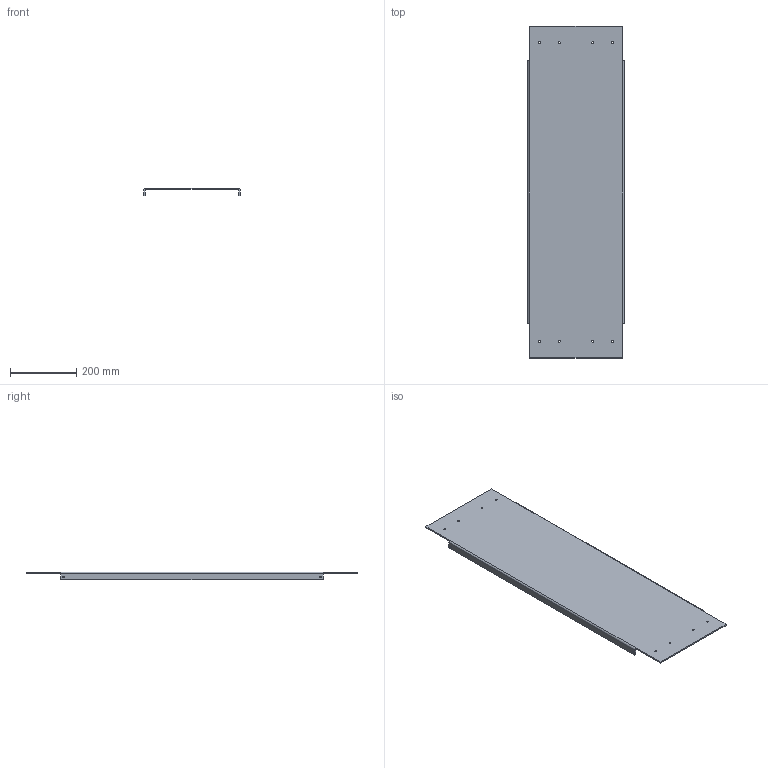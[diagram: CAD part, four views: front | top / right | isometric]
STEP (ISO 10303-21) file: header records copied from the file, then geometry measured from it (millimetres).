
FILE_DESCRIPTION(('HOOPS Exchange Step'),'2;1');
FILE_NAME('/private/var/mobile/Containers/Data/Application/E4481369-A8C6-45C6-A958-B1853E49479D/tmp/export/temp_export','2021-04-12T21:03:43+00:00',('mobile'),('Shapr3D Limited'),'HOOPS Exchange 2020.2','Shapr3D','Authorized');
FILE_SCHEMA( ('AP203_CONFIGURATION_CONTROLLED_3D_DESIGN_OF_MECHANICAL_PARTS_AND_ASSEMBLIES_MIM_LF') );
Length unit declared in the file: millimetre
Products named in the file (2): 0; /private/var/mobile/Containers/Data/Application/E4481369-A8C6-45C6-A958-B1853E49479D/tmp/0E3D50C4-B841-4A8A-A62D-F2034F516B5B.tmp
Assembly tree (1 placements, depth 2):
  /private/var/mobile/Containers/Data/Application/E4481369-A8C6-45C6-A958-B1853E49479D/tmp/0E3D50C4-B841-4A8A-A62D-F2034F516B5B.tmp
    0
Bounding box: 290 x 1000 x 24 mm (x, y, z)
Volume: 1269215.4 mm3; surface area: 645997.5 mm2
Topology: 1 solids, 1 shells, 42 faces, 128 edges, 88 vertices
Faces by surface type: cylinder 24, plane 18
Full cylindrical faces by diameter (mm): 5.2 x12
Entity records: 1575 total; most frequent: DIRECTION 282, CARTESIAN_POINT 261, ORIENTED_EDGE 256, EDGE_CURVE 128, AXIS2_PLACEMENT_3D 109, VERTEX_POINT 88, EDGE_LOOP 66, FACE_BOUND 66
